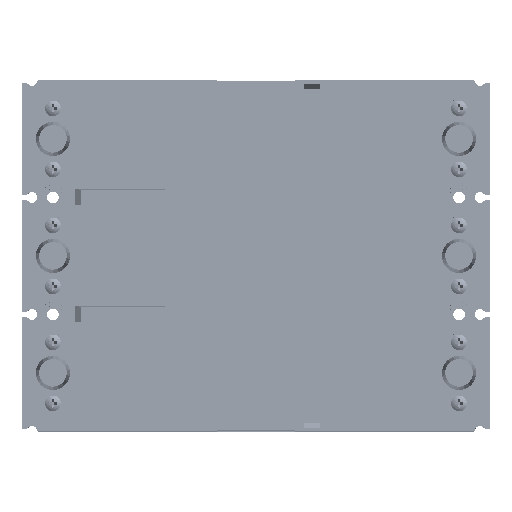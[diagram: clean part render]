
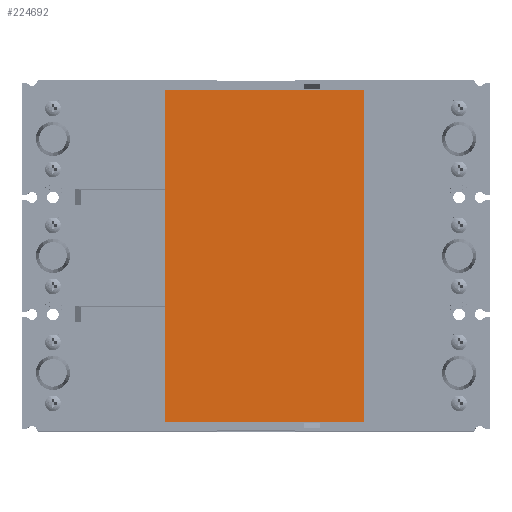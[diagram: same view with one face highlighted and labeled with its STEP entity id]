
A CAD part, top view. The second image highlights one B-rep face of the part: STEP entity #224692.
In plain terms, the highlighted planar face has unit normal (0, 0, 1) as drawn and (0, 1, 0) by its records, which use the part's own axes.
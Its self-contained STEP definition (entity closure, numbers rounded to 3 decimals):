
#224527=DIRECTION('',(0.,0.,-1.));
#224528=VECTOR('',#224527,59.5);
#224529=CARTESIAN_POINT('',(-99.5,1.,59.5));
#224530=LINE('',#224529,#224528);
#224531=DIRECTION('',(0.,0.,-1.));
#224532=VECTOR('',#224531,59.5);
#224533=CARTESIAN_POINT('',(-99.5,1.,0.));
#224534=LINE('',#224533,#224532);
#224535=DIRECTION('',(1.,0.,0.));
#224536=VECTOR('',#224535,199.);
#224537=CARTESIAN_POINT('',(-99.5,1.,-59.5));
#224538=LINE('',#224537,#224536);
#224539=DIRECTION('',(0.,0.,1.));
#224540=VECTOR('',#224539,59.5);
#224541=CARTESIAN_POINT('',(99.5,1.,-59.5));
#224542=LINE('',#224541,#224540);
#224543=DIRECTION('',(0.,0.,1.));
#224544=VECTOR('',#224543,59.5);
#224545=CARTESIAN_POINT('',(99.5,1.,0.));
#224546=LINE('',#224545,#224544);
#224547=DIRECTION('',(-1.,0.,0.));
#224548=VECTOR('',#224547,199.);
#224549=CARTESIAN_POINT('',(99.5,1.,59.5));
#224550=LINE('',#224549,#224548);
#224563=CARTESIAN_POINT('',(-99.5,1.,0.));
#224564=VERTEX_POINT('',#224563);
#224565=CARTESIAN_POINT('',(-99.5,1.,59.5));
#224566=VERTEX_POINT('',#224565);
#224567=CARTESIAN_POINT('',(-99.5,1.,-59.5));
#224568=VERTEX_POINT('',#224567);
#224569=CARTESIAN_POINT('',(99.5,1.,-59.5));
#224570=VERTEX_POINT('',#224569);
#224571=CARTESIAN_POINT('',(99.5,1.,0.));
#224572=VERTEX_POINT('',#224571);
#224573=CARTESIAN_POINT('',(99.5,1.,59.5));
#224574=VERTEX_POINT('',#224573);
#224679=CARTESIAN_POINT('',(0.,1.,0.));
#224680=DIRECTION('',(0.,1.,0.));
#224681=DIRECTION('',(1.,0.,0.));
#224682=AXIS2_PLACEMENT_3D('',#224679,#224680,#224681);
#224683=PLANE('',#224682);
#224684=ORIENTED_EDGE('',*,*,#224603,.T.);
#224685=ORIENTED_EDGE('',*,*,#224618,.T.);
#224686=ORIENTED_EDGE('',*,*,#224632,.T.);
#224687=ORIENTED_EDGE('',*,*,#224646,.T.);
#224688=ORIENTED_EDGE('',*,*,#224660,.T.);
#224689=ORIENTED_EDGE('',*,*,#224673,.T.);
#224690=EDGE_LOOP('',(#224684,#224685,#224686,#224687,#224688,#224689));
#224691=FACE_OUTER_BOUND('',#224690,.F.);
#224692=ADVANCED_FACE('',(#224691),#224683,.T.);
#224603=EDGE_CURVE('',#224566,#224564,#224530,.T.);
#224618=EDGE_CURVE('',#224564,#224568,#224534,.T.);
#224632=EDGE_CURVE('',#224568,#224570,#224538,.T.);
#224646=EDGE_CURVE('',#224570,#224572,#224542,.T.);
#224660=EDGE_CURVE('',#224572,#224574,#224546,.T.);
#224673=EDGE_CURVE('',#224574,#224566,#224550,.T.);
